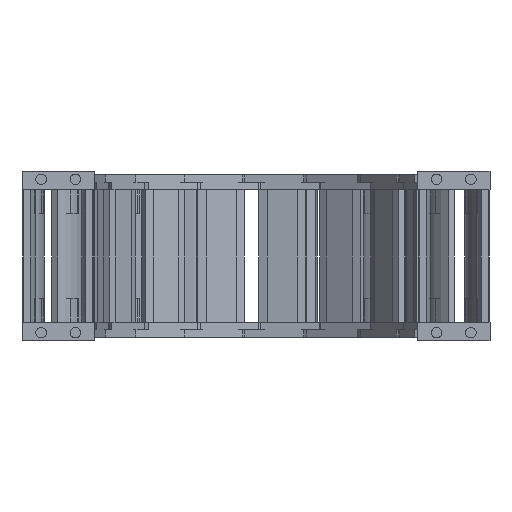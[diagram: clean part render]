
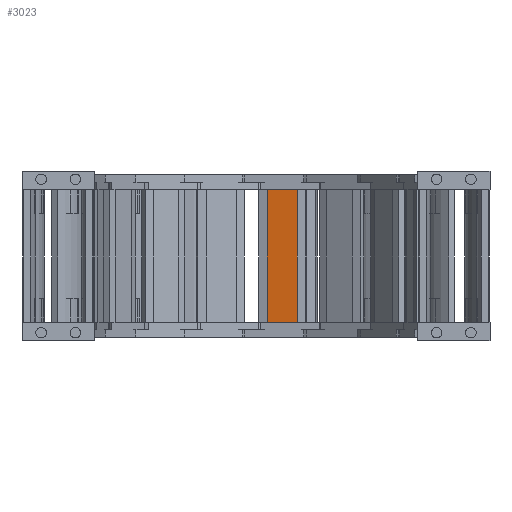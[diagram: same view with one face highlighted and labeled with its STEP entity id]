
A CAD part, left-side view. The second image highlights one B-rep face of the part: STEP entity #3023.
In plain terms, the highlighted planar face has unit normal (-0.986, 0.164, 0) as drawn and (0, 1, 0) by its records, which use the part's own axes.
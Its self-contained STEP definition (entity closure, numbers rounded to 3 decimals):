
#2766=DIRECTION('',(1.,0.,0.));
#2767=VECTOR('',#2766,23.);
#2768=CARTESIAN_POINT('',(-11.5,3.,87.8));
#2769=LINE('',#2768,#2767);
#2815=DIRECTION('',(0.,0.,-1.));
#2816=VECTOR('',#2815,100.3);
#2817=CARTESIAN_POINT('',(11.5,3.,87.8));
#2818=LINE('',#2817,#2816);
#2837=DIRECTION('',(-1.,0.,0.));
#2838=VECTOR('',#2837,23.);
#2839=CARTESIAN_POINT('',(11.5,3.,-12.5));
#2840=LINE('',#2839,#2838);
#2851=DIRECTION('',(0.,0.,-1.));
#2852=VECTOR('',#2851,100.3);
#2853=CARTESIAN_POINT('',(-11.5,3.,87.8));
#2854=LINE('',#2853,#2852);
#2878=CARTESIAN_POINT('',(11.5,3.,87.8));
#2879=VERTEX_POINT('',#2878);
#2882=CARTESIAN_POINT('',(-11.5,3.,87.8));
#2883=VERTEX_POINT('',#2882);
#2890=CARTESIAN_POINT('',(11.5,3.,-12.5));
#2891=VERTEX_POINT('',#2890);
#2892=CARTESIAN_POINT('',(-11.5,3.,-12.5));
#2893=VERTEX_POINT('',#2892);
#3011=CARTESIAN_POINT('',(15.5,3.,37.8));
#3012=DIRECTION('',(0.,1.,0.));
#3013=DIRECTION('',(-1.,0.,0.));
#3014=AXIS2_PLACEMENT_3D('',#3011,#3012,#3013);
#3015=PLANE('',#3014);
#3017=ORIENTED_EDGE('',*,*,#3016,.T.);
#3018=ORIENTED_EDGE('',*,*,#2995,.F.);
#3019=ORIENTED_EDGE('',*,*,#2975,.F.);
#3020=ORIENTED_EDGE('',*,*,#2907,.F.);
#3021=EDGE_LOOP('',(#3017,#3018,#3019,#3020));
#3022=FACE_OUTER_BOUND('',#3021,.F.);
#3023=ADVANCED_FACE('',(#3022),#3015,.T.);
#2907=EDGE_CURVE('',#2883,#2879,#2769,.T.);
#2975=EDGE_CURVE('',#2879,#2891,#2818,.T.);
#2995=EDGE_CURVE('',#2891,#2893,#2840,.T.);
#3016=EDGE_CURVE('',#2883,#2893,#2854,.T.);
